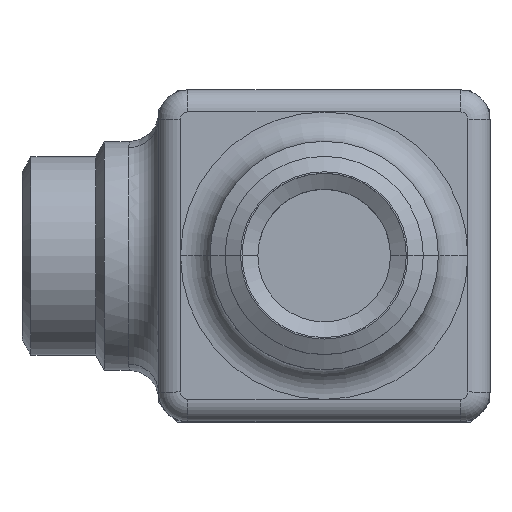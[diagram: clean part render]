
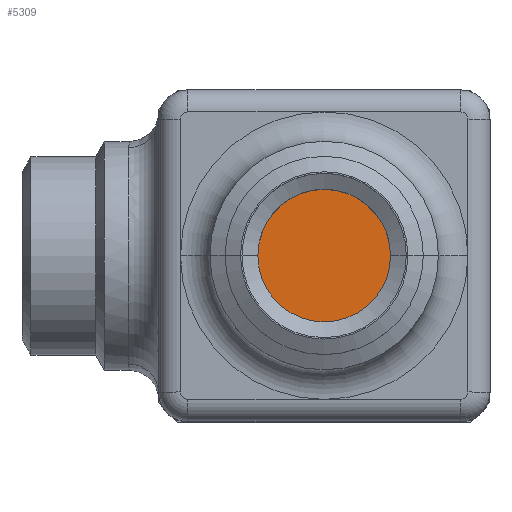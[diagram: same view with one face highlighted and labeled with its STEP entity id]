
A CAD part, top view. The second image highlights one B-rep face of the part: STEP entity #5309.
In plain terms, the highlighted planar face has unit normal (0, 0, 1).
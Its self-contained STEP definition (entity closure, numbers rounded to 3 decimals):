
#54 = FACE_OUTER_BOUND ( 'NONE', #5281, .T. ) ;
#55 = PLANE ( 'NONE',  #56 ) ;
#56 = AXIS2_PLACEMENT_3D ( 'NONE', #57, #58, #59 ) ;
#57 = CARTESIAN_POINT ( 'NONE',  ( 0., 0., 3. ) ) ;
#58 = DIRECTION ( 'NONE',  ( 0., 0., 1. ) ) ;
#59 = DIRECTION ( 'NONE',  ( 1., 0., 0. ) ) ;
#978 = CIRCLE ( 'NONE', #981, 15.5 ) ;
#981 = AXIS2_PLACEMENT_3D ( 'NONE', #982, #983, #984 ) ;
#982 = CARTESIAN_POINT ( 'NONE',  ( 0., 0., 3. ) ) ;
#983 = DIRECTION ( 'NONE',  ( 0., 0., 1. ) ) ;
#984 = DIRECTION ( 'NONE',  ( 1., 0., 0. ) ) ;
#2290 = CIRCLE ( 'NONE', #2291, 15.5 ) ;
#2291 = AXIS2_PLACEMENT_3D ( 'NONE', #2292, #2293, #2294 ) ;
#2292 = CARTESIAN_POINT ( 'NONE',  ( 0., 0., 3. ) ) ;
#2293 = DIRECTION ( 'NONE',  ( 0., 0., 1. ) ) ;
#2294 = DIRECTION ( 'NONE',  ( 1., 0., 0. ) ) ;
#2936 = VERTEX_POINT ( 'NONE', #8349 ) ;
#3149 = VERTEX_POINT ( 'NONE', #8554 ) ;
#3369 = EDGE_CURVE ( 'NONE', #3149, #2936, #978, .T. ) ;
#5230 = ORIENTED_EDGE ( 'NONE', *, *, #5451, .T. ) ;
#5281 = EDGE_LOOP ( 'NONE', ( #5230, #8191 ) ) ;
#5309 = ADVANCED_FACE ( 'NONE', ( #54 ), #55, .T. ) ;
#5451 = EDGE_CURVE ( 'NONE', #2936, #3149, #2290, .T. ) ;
#8191 = ORIENTED_EDGE ( 'NONE', *, *, #3369, .T. ) ;
#8349 = CARTESIAN_POINT ( 'NONE',  ( -15.5, 0., 3. ) ) ;
#8554 = CARTESIAN_POINT ( 'NONE',  ( 15.5, 0., 3. ) ) ;
